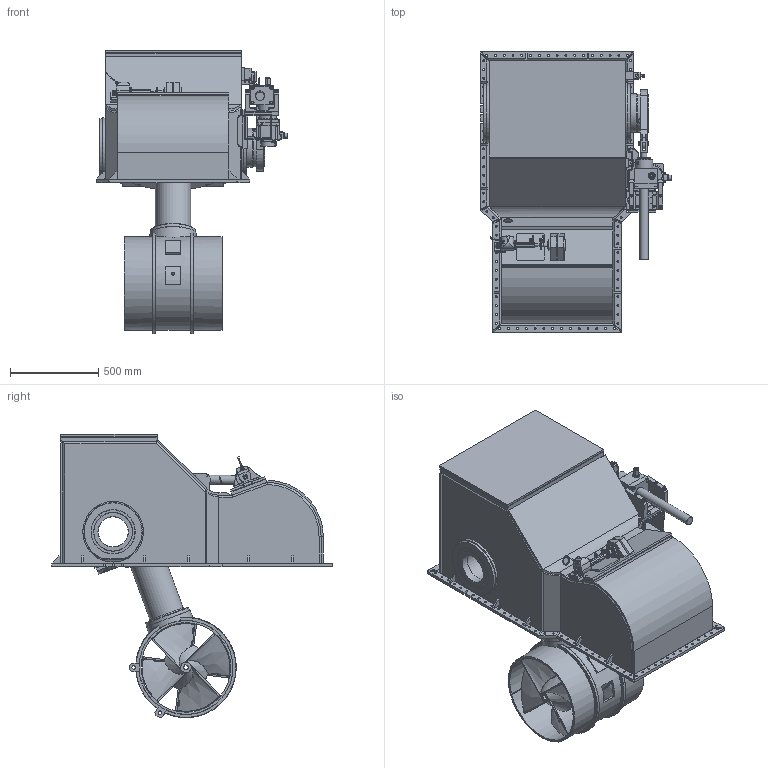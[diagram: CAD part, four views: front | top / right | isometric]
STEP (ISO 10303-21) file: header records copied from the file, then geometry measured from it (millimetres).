
FILE_DESCRIPTION(/* description */ (''),/* implementation_level */ '2;1');
FILE_NAME(/* name */ 'Q:\THRUSTERS\THRUSTER SALES & SUPPORT DOCS\THRUSTER Sales\E-S\E-0500-S\E-0500-S-DEPLOYED.stp',/* time_stamp */ '2021-03-24T13:37:27+00:00',/* author */ ('Barney.Webborn'),/* organization */ (''),/* preprocessor_version */ 'ST-DEVELOPER v17.2',/* originating_system */ 'Autodesk Inventor 2019',/* authorisation */ '');
FILE_SCHEMA (('AUTOMOTIVE_DESIGN { 1 0 10303 214 3 1 1 }'));
Products named in the file (1): E-0500-S_Shrinkwrap_1
Bounding box: 1084.99 x 1588 x 1605.04 mm (x, y, z)
Volume: 120177842.2 mm3; surface area: 16473109.8 mm2
Topology: 4 solids, 4 shells, 2531 faces, 6813 edges, 4415 vertices
Faces by surface type: plane 1489, cylinder 709, cone 203, torus 56, bspline 52, sphere 22
Full cylindrical faces by diameter (mm): 2 x2, 3 x3, 5.5 x8, 5.6 x4, 5.9 x12, 6 x5, 7 x8, 7.2 x2, 7.6 x8, 8 x9, 8.5 x8, 9 x1, 9.2 x8, 10 x2, 10.3 x55, 10.5 x36, 10.8 x6, 11 x99, 12 x4, 12.3 x1, 15 x1, 15.3 x1, 16 x6, 17 x32, 17.29 x1, 17.5 x1, 18.25 x2, 18.376 x2, 20 x5, 22 x3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
Entity records: 86212 total; most frequent: CARTESIAN_POINT 18507, DIRECTION 13649, ORIENTED_EDGE 13448, EDGE_CURVE 6724, AXIS2_PLACEMENT_3D 4831, VERTEX_POINT 4413, LINE 3987, VECTOR 3987
